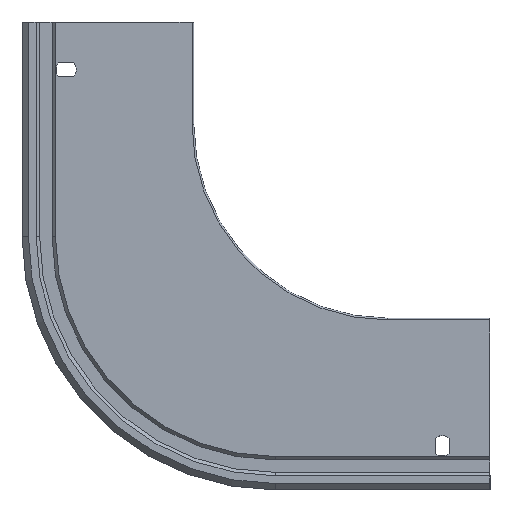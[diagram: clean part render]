
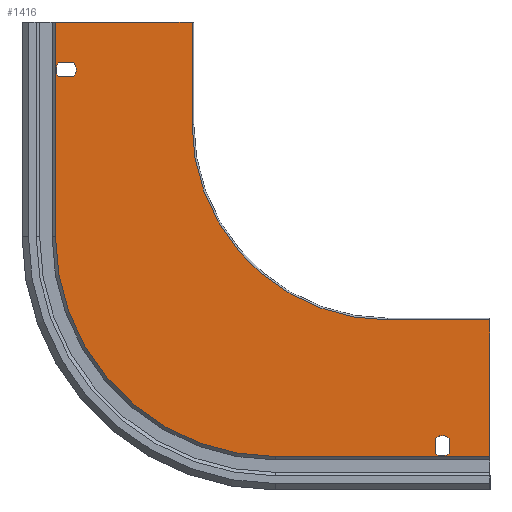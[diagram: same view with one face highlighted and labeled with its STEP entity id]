
A CAD part, left-side view. The second image highlights one B-rep face of the part: STEP entity #1416.
In plain terms, the highlighted planar face has unit normal (-1, 0, 0).
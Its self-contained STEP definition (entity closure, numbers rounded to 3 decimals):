
#2 = LINE ( 'NONE', #3537, #2439 ) ;
#24 = DIRECTION ( 'NONE',  ( 0., 1., 0. ) ) ;
#28 = VECTOR ( 'NONE', #1133, 1000. ) ;
#92 = VECTOR ( 'NONE', #5086, 1000. ) ;
#117 = PLANE ( 'NONE',  #685 ) ;
#133 = LINE ( 'NONE', #1717, #3907 ) ;
#195 = CIRCLE ( 'NONE', #437, 6. ) ;
#207 = EDGE_CURVE ( 'NONE', #984, #4237, #1928, .T. ) ;
#249 = ORIENTED_EDGE ( 'NONE', *, *, #1632, .T. ) ;
#258 = ORIENTED_EDGE ( 'NONE', *, *, #2374, .F. ) ;
#284 = CARTESIAN_POINT ( 'NONE',  ( 0., 255.531, -255.2 ) ) ;
#291 = AXIS2_PLACEMENT_3D ( 'NONE', #1739, #3313, #1348 ) ;
#337 = VERTEX_POINT ( 'NONE', #3479 ) ;
#348 = DIRECTION ( 'NONE',  ( 1., 0., 0. ) ) ;
#368 = ORIENTED_EDGE ( 'NONE', *, *, #4073, .F. ) ;
#388 = DIRECTION ( 'NONE',  ( 0., 0., -1. ) ) ;
#413 = CARTESIAN_POINT ( 'NONE',  ( 0., 28., -12. ) ) ;
#437 = AXIS2_PLACEMENT_3D ( 'NONE', #3982, #2807, #1594 ) ;
#537 = VERTEX_POINT ( 'NONE', #2079 ) ;
#541 = FACE_BOUND ( 'NONE', #2925, .T. ) ;
#546 = CARTESIAN_POINT ( 'NONE',  ( 0., 60., -80. ) ) ;
#574 = DIRECTION ( 'NONE',  ( 0., 0., 1. ) ) ;
#578 = DIRECTION ( 'NONE',  ( 0., 1., 0. ) ) ;
#589 = LINE ( 'NONE', #4508, #1863 ) ;
#636 = VECTOR ( 'NONE', #1479, 1000. ) ;
#672 = ORIENTED_EDGE ( 'NONE', *, *, #2683, .T. ) ;
#685 = AXIS2_PLACEMENT_3D ( 'NONE', #1310, #2882, #912 ) ;
#723 = CARTESIAN_POINT ( 'NONE',  ( 0., 175.2, -195.2 ) ) ;
#761 = VERTEX_POINT ( 'NONE', #2014 ) ;
#762 = CIRCLE ( 'NONE', #3647, 6. ) ;
#827 = EDGE_CURVE ( 'NONE', #337, #4868, #2066, .T. ) ;
#850 = EDGE_CURVE ( 'NONE', #4843, #537, #3742, .T. ) ;
#865 = ORIENTED_EDGE ( 'NONE', *, *, #3436, .F. ) ;
#912 = DIRECTION ( 'NONE',  ( 0., 0., -1. ) ) ;
#975 = CARTESIAN_POINT ( 'NONE',  ( 0., 28., -6. ) ) ;
#984 = VERTEX_POINT ( 'NONE', #723 ) ;
#1003 = DIRECTION ( 'NONE',  ( -1., 0., 0. ) ) ;
#1070 = CARTESIAN_POINT ( 'NONE',  ( 0., 0., 0. ) ) ;
#1122 = LINE ( 'NONE', #2552, #636 ) ;
#1133 = DIRECTION ( 'NONE',  ( 0., -1., 0. ) ) ;
#1139 = DIRECTION ( 'NONE',  ( 0., 0., -1. ) ) ;
#1141 = EDGE_CURVE ( 'NONE', #4695, #3704, #4645, .T. ) ;
#1180 = VECTOR ( 'NONE', #574, 1000. ) ;
#1194 = EDGE_CURVE ( 'NONE', #4584, #337, #195, .T. ) ;
#1310 = CARTESIAN_POINT ( 'NONE',  ( 0., 0., 0. ) ) ;
#1318 = EDGE_CURVE ( 'NONE', #4868, #4843, #762, .T. ) ;
#1348 = DIRECTION ( 'NONE',  ( 0., 0., 1. ) ) ;
#1380 = CARTESIAN_POINT ( 'NONE',  ( 0., 0., 0.331 ) ) ;
#1407 = CARTESIAN_POINT ( 'NONE',  ( 0., 28., -6. ) ) ;
#1416 = ADVANCED_FACE ( 'NONE', ( #4034, #541, #3655 ), #117, .F. ) ;
#1478 = VERTEX_POINT ( 'NONE', #2633 ) ;
#1479 = DIRECTION ( 'NONE',  ( 0., 1., 0. ) ) ;
#1509 = ORIENTED_EDGE ( 'NONE', *, *, #850, .T. ) ;
#1594 = DIRECTION ( 'NONE',  ( 0., 0., -1. ) ) ;
#1632 = EDGE_CURVE ( 'NONE', #3704, #2713, #2777, .T. ) ;
#1648 = CARTESIAN_POINT ( 'NONE',  ( 0., 249.2, -227.2 ) ) ;
#1679 = CARTESIAN_POINT ( 'NONE',  ( 0., 32., 0. ) ) ;
#1717 = CARTESIAN_POINT ( 'NONE',  ( 0., 174.2, -255.2 ) ) ;
#1739 = CARTESIAN_POINT ( 'NONE',  ( 0., 126., -129.2 ) ) ;
#1782 = AXIS2_PLACEMENT_3D ( 'NONE', #3958, #2784, #1139 ) ;
#1846 = VECTOR ( 'NONE', #2262, 1000. ) ;
#1850 = EDGE_LOOP ( 'NONE', ( #258, #2517, #672, #2639, #865, #4051, #368, #3707 ) ) ;
#1863 = VECTOR ( 'NONE', #2170, 1000. ) ;
#1928 = LINE ( 'NONE', #3144, #92 ) ;
#1972 = VERTEX_POINT ( 'NONE', #3159 ) ;
#2014 = CARTESIAN_POINT ( 'NONE',  ( 0., 244.728, -231.2 ) ) ;
#2066 = LINE ( 'NONE', #1679, #1180 ) ;
#2079 = CARTESIAN_POINT ( 'NONE',  ( 0., 24., -10.472 ) ) ;
#2089 = DIRECTION ( 'NONE',  ( 1., 0., 0. ) ) ;
#2090 = EDGE_LOOP ( 'NONE', ( #3090, #2627, #1509, #3447, #4858 ) ) ;
#2149 = DIRECTION ( 'NONE',  ( 0., 0., -1. ) ) ;
#2170 = DIRECTION ( 'NONE',  ( 0., -1., 0. ) ) ;
#2202 = DIRECTION ( 'NONE',  ( 0., 0., 1. ) ) ;
#2214 = CARTESIAN_POINT ( 'NONE',  ( 0., 24., -1.528 ) ) ;
#2262 = DIRECTION ( 'NONE',  ( 0., 0., -1. ) ) ;
#2295 = VERTEX_POINT ( 'NONE', #284 ) ;
#2359 = EDGE_CURVE ( 'NONE', #537, #4584, #4149, .T. ) ;
#2374 = EDGE_CURVE ( 'NONE', #3454, #4673, #3372, .T. ) ;
#2426 = DIRECTION ( 'NONE',  ( 0., 0., -1. ) ) ;
#2439 = VECTOR ( 'NONE', #24, 1000. ) ;
#2517 = ORIENTED_EDGE ( 'NONE', *, *, #4530, .F. ) ;
#2552 = CARTESIAN_POINT ( 'NONE',  ( 0., 0., -80. ) ) ;
#2558 = DIRECTION ( 'NONE',  ( 0., 0., -1. ) ) ;
#2627 = ORIENTED_EDGE ( 'NONE', *, *, #1318, .T. ) ;
#2633 = CARTESIAN_POINT ( 'NONE',  ( 0., 255.531, -129.2 ) ) ;
#2639 = ORIENTED_EDGE ( 'NONE', *, *, #3344, .T. ) ;
#2683 = EDGE_CURVE ( 'NONE', #1972, #1478, #4837, .T. ) ;
#2713 = VERTEX_POINT ( 'NONE', #2999 ) ;
#2763 = CIRCLE ( 'NONE', #3181, 115.2 ) ;
#2766 = LINE ( 'NONE', #3925, #4485 ) ;
#2777 = LINE ( 'NONE', #3087, #28 ) ;
#2784 = DIRECTION ( 'NONE',  ( 1., 0., 0. ) ) ;
#2804 = ORIENTED_EDGE ( 'NONE', *, *, #4115, .T. ) ;
#2807 = DIRECTION ( 'NONE',  ( 1., 0., 0. ) ) ;
#2882 = DIRECTION ( 'NONE',  ( 1., 0., 0. ) ) ;
#2925 = EDGE_LOOP ( 'NONE', ( #4116, #4347, #249, #2804 ) ) ;
#2970 = CARTESIAN_POINT ( 'NONE',  ( 0., 60., -195.2 ) ) ;
#2999 = CARTESIAN_POINT ( 'NONE',  ( 0., 244.728, -223.2 ) ) ;
#3087 = CARTESIAN_POINT ( 'NONE',  ( 0., 0., -223.2 ) ) ;
#3090 = ORIENTED_EDGE ( 'NONE', *, *, #827, .T. ) ;
#3144 = CARTESIAN_POINT ( 'NONE',  ( 0., 175.2, -195.2 ) ) ;
#3159 = CARTESIAN_POINT ( 'NONE',  ( 0., 126., 0.331 ) ) ;
#3181 = AXIS2_PLACEMENT_3D ( 'NONE', #2970, #1003, #2202 ) ;
#3238 = VECTOR ( 'NONE', #2558, 1000. ) ;
#3250 = CARTESIAN_POINT ( 'NONE',  ( 0., 175.2, -255.2 ) ) ;
#3289 = CARTESIAN_POINT ( 'NONE',  ( 0., 24., 0. ) ) ;
#3313 = DIRECTION ( 'NONE',  ( -1., 0., 0. ) ) ;
#3344 = EDGE_CURVE ( 'NONE', #1478, #2295, #2766, .T. ) ;
#3372 = LINE ( 'NONE', #1070, #1846 ) ;
#3436 = EDGE_CURVE ( 'NONE', #4237, #2295, #133, .T. ) ;
#3447 = ORIENTED_EDGE ( 'NONE', *, *, #2359, .T. ) ;
#3454 = VERTEX_POINT ( 'NONE', #1380 ) ;
#3479 = CARTESIAN_POINT ( 'NONE',  ( 0., 32., -10.472 ) ) ;
#3537 = CARTESIAN_POINT ( 'NONE',  ( 0., 0., -231.2 ) ) ;
#3647 = AXIS2_PLACEMENT_3D ( 'NONE', #975, #2089, #2149 ) ;
#3655 = FACE_OUTER_BOUND ( 'NONE', #1850, .T. ) ;
#3696 = EDGE_CURVE ( 'NONE', #761, #4695, #2, .T. ) ;
#3704 = VERTEX_POINT ( 'NONE', #3964 ) ;
#3707 = ORIENTED_EDGE ( 'NONE', *, *, #4434, .F. ) ;
#3742 = LINE ( 'NONE', #3289, #3238 ) ;
#3752 = DIRECTION ( 'NONE',  ( 0., 0., -1. ) ) ;
#3856 = VERTEX_POINT ( 'NONE', #546 ) ;
#3902 = AXIS2_PLACEMENT_3D ( 'NONE', #1407, #4186, #3752 ) ;
#3907 = VECTOR ( 'NONE', #578, 1000. ) ;
#3925 = CARTESIAN_POINT ( 'NONE',  ( 0., 255.531, -129.2 ) ) ;
#3958 = CARTESIAN_POINT ( 'NONE',  ( 0., 249.2, -227.2 ) ) ;
#3964 = CARTESIAN_POINT ( 'NONE',  ( 0., 253.672, -223.2 ) ) ;
#3982 = CARTESIAN_POINT ( 'NONE',  ( 0., 28., -6. ) ) ;
#4034 = FACE_BOUND ( 'NONE', #2090, .T. ) ;
#4051 = ORIENTED_EDGE ( 'NONE', *, *, #207, .F. ) ;
#4073 = EDGE_CURVE ( 'NONE', #3856, #984, #2763, .T. ) ;
#4115 = EDGE_CURVE ( 'NONE', #2713, #761, #4244, .T. ) ;
#4116 = ORIENTED_EDGE ( 'NONE', *, *, #3696, .T. ) ;
#4149 = CIRCLE ( 'NONE', #3902, 6. ) ;
#4186 = DIRECTION ( 'NONE',  ( 1., 0., 0. ) ) ;
#4231 = CARTESIAN_POINT ( 'NONE',  ( 0., 32., -1.528 ) ) ;
#4237 = VERTEX_POINT ( 'NONE', #3250 ) ;
#4244 = CIRCLE ( 'NONE', #1782, 6. ) ;
#4347 = ORIENTED_EDGE ( 'NONE', *, *, #1141, .T. ) ;
#4434 = EDGE_CURVE ( 'NONE', #4673, #3856, #1122, .T. ) ;
#4462 = CARTESIAN_POINT ( 'NONE',  ( 0., 253.672, -231.2 ) ) ;
#4485 = VECTOR ( 'NONE', #388, 1000. ) ;
#4508 = CARTESIAN_POINT ( 'NONE',  ( 0., 126., 0.331 ) ) ;
#4519 = CARTESIAN_POINT ( 'NONE',  ( 0., 0., -80. ) ) ;
#4530 = EDGE_CURVE ( 'NONE', #1972, #3454, #589, .T. ) ;
#4584 = VERTEX_POINT ( 'NONE', #413 ) ;
#4645 = CIRCLE ( 'NONE', #4812, 6. ) ;
#4673 = VERTEX_POINT ( 'NONE', #4519 ) ;
#4695 = VERTEX_POINT ( 'NONE', #4462 ) ;
#4812 = AXIS2_PLACEMENT_3D ( 'NONE', #1648, #348, #2426 ) ;
#4837 = CIRCLE ( 'NONE', #291, 129.531 ) ;
#4843 = VERTEX_POINT ( 'NONE', #2214 ) ;
#4858 = ORIENTED_EDGE ( 'NONE', *, *, #1194, .T. ) ;
#4868 = VERTEX_POINT ( 'NONE', #4231 ) ;
#5086 = DIRECTION ( 'NONE',  ( 0., 0., -1. ) ) ;
